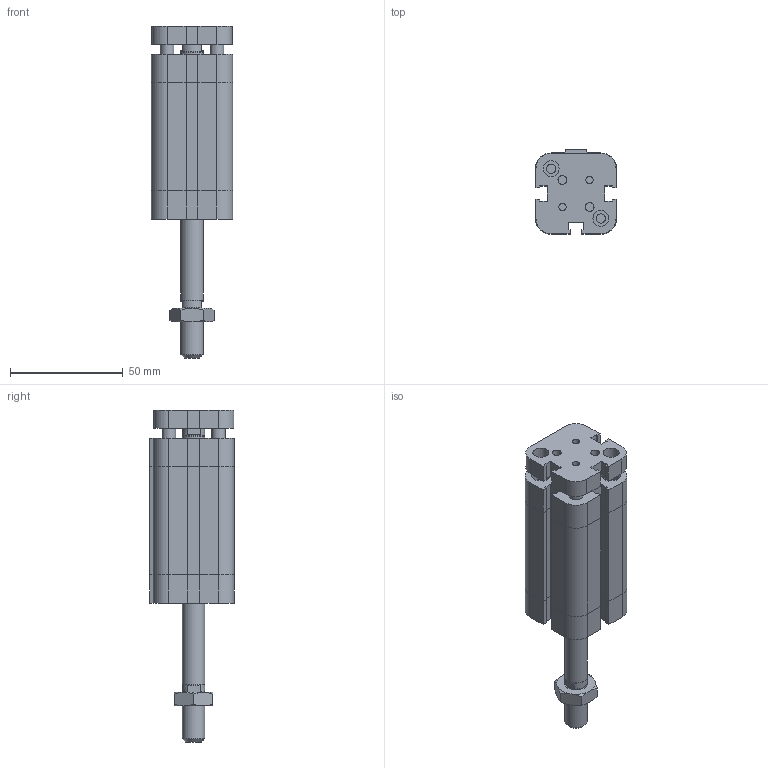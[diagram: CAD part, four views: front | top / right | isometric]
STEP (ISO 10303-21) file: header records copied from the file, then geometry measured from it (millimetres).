
FILE_DESCRIPTION((''),'2;1');
FILE_NAME('I:\Area Tecnica\Disegni\VARIE-3D\Componenti\EUROPE\15##_###_####_09_#\1581_20_0035_09_1.iam.stp','2009-04-20T15:43:16',(''),(''),'Autodesk Inventor 2009','Autodesk Inventor 2009','');
FILE_SCHEMA(('AUTOMOTIVE_DESIGN { 1 0 10303 214 1 1 1 1 }'));
Length unit declared in the file: millimetre
Products named in the file (4): 1581_20_0035_09_1; 1581_20_0035_08_1_C; 1561_20_0035_09_1_SA; DBFM10
Assembly tree (3 placements, depth 2):
  1581_20_0035_09_1
    1581_20_0035_08_1_C
    1561_20_0035_09_1_SA
    DBFM10
Bounding box: 36 x 37.5 x 147 mm (x, y, z)
Volume: 99102.9 mm3; surface area: 31340.2 mm2
Topology: 3 solids, 3 shells, 236 faces, 550 edges, 339 vertices
Faces by surface type: plane 147, bspline 45, cylinder 23, cone 21
Full cylindrical faces by diameter (mm): 6 x2, 8.8 x1, 9.8 x2, 10 x2
Entity records: 6859 total; most frequent: CARTESIAN_POINT 1610, ORIENTED_EDGE 992, DIRECTION 974, EDGE_CURVE 496, VECTOR 350, LINE 350, VERTEX_POINT 322, AXIS2_PLACEMENT_3D 312
